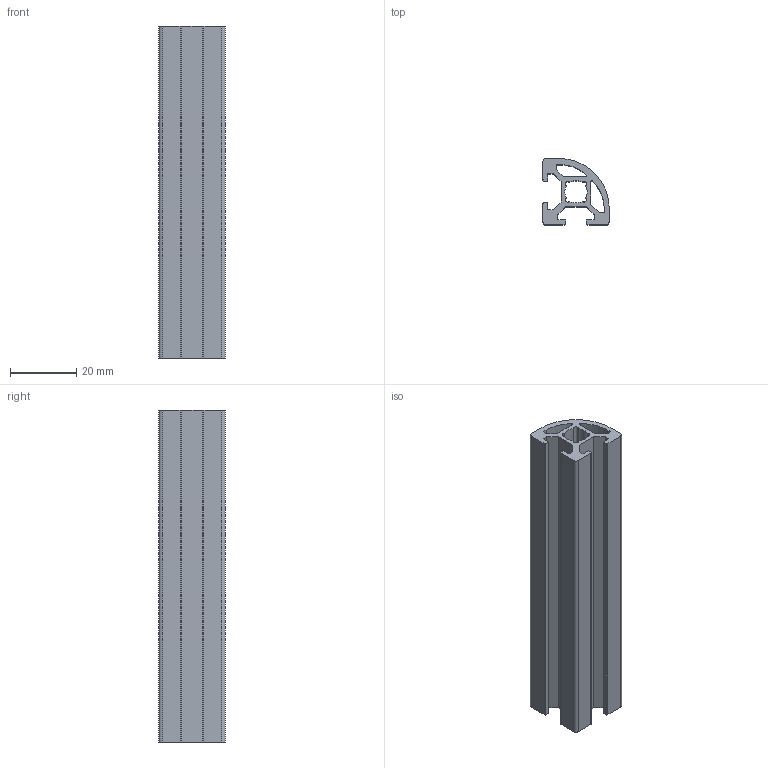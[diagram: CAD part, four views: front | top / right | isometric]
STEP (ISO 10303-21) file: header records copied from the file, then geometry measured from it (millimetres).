
FILE_DESCRIPTION (( 'STEP AP203' ), '1' );
FILE_NAME ('LIMA-2020CR-6.STEP', '2018-03-15T12:28:11', ( '' ), ( '' ), 'SwSTEP 2.0', 'SolidWorks 2013', '' );
FILE_SCHEMA (( 'CONFIG_CONTROL_DESIGN' ));
Length unit declared in the file: millimetre
Products named in the file (1): LIMA-2020CR-6
Bounding box: 20 x 20 x 100 mm (x, y, z)
Volume: 16636.1 mm3; surface area: 18146.6 mm2
Topology: 1 solids, 1 shells, 62 faces, 180 edges, 120 vertices
Faces by surface type: plane 42, cylinder 20
Entity records: 2133 total; most frequent: CARTESIAN_POINT 363, ORIENTED_EDGE 360, DIRECTION 346, EDGE_CURVE 180, VECTOR 140, LINE 140, VERTEX_POINT 120, AXIS2_PLACEMENT_3D 103
